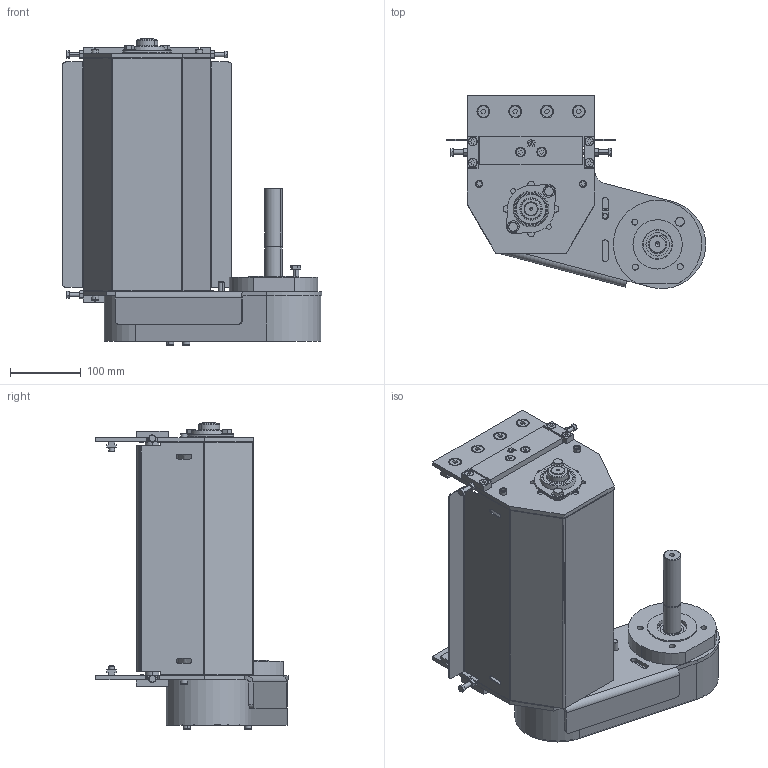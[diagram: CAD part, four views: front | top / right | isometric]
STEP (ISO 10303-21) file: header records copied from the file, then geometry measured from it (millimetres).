
FILE_DESCRIPTION (( 'STEP AP203' ), '1' );
FILE_NAME ('084.050.KCRS.49.300.STEP', '2019-07-30T06:41:48', ( '' ), ( '' ), 'SwSTEP 2.0', 'SolidWorks 2018', '' );
FILE_SCHEMA (( 'CONFIG_CONTROL_DESIGN' ));
Length unit declared in the file: millimetre
Products named in the file (37): DADI ESAGONALI NORMALI UNI 5588_M6 UNI 5588; VITI TE UNI 5739_M6x50 UNI 5739; 084.810.009; Circlip DIN 471 - 8 x 0.8_Circlip DIN 471 - 8 x 0.8; VITI TSEI UNI 5933_M6x16 UNI 5933; VITI TSEI UNI 5933_M8x20 UNI 5933; 084.821.002; 084.817.019; 084.802.011; 084.816.102_084.816.107<A macchina>; 084.810.003; 084.802.020; 084.813.008; VITI TE UNI 5739_M8x60 UNI 5739; VITI TCEI UNI 5931_M6x20 UNI 5931; 084.817.020; 084.809.006_Default<A macchina>; CUSCINETTI A SFERE_6004-2RS; 084.814.007; RONDELLE UNI 6592_8.4x17 UNI 6592; 084.812.003; 084.817.018; VITI TCEI UNI 5931_M6x70 UNI 5931; CHIAVETTE_A 8x7x70 UNI 6604-69; CHIAVETTE_A 8x7x25 UNI 6604-69; CUSCINETTI A SFERE_608-2RS; 084.050.KCRS.49.300; 084.802.021; 084.802.004-1; 084.802.012; VITI TE UNI 5739_M8x12 UNI 5739; SBPFL 205; 084.802.052; 084.802.050-1; 084.307.006; 084.802.003-1; ISO 7040-M8-N_ISO 7040-M8-N
Assembly tree (86 placements, depth 2):
  084.050.KCRS.49.300
    084.802.050-1
    084.802.011
    084.814.007
    CHIAVETTE_A 8x7x70 UNI 6604-69
    084.821.002  x2
    084.802.052  x2
    084.810.009
    CUSCINETTI A SFERE_608-2RS  x3
    Circlip DIN 471 - 8 x 0.8_Circlip DIN 471 - 8 x 0.8
    SBPFL 205
    RONDELLE UNI 6592_8.4x17 UNI 6592  x4
    VITI TE UNI 5739_M8x12 UNI 5739  x4
    084.813.008
    084.802.004-1  x4
    084.802.012  x2
    VITI TSEI UNI 5933_M6x16 UNI 5933  x12
    VITI TE UNI 5739_M6x50 UNI 5739  x4
    DADI ESAGONALI NORMALI UNI 5588_M6 UNI 5588  x4
    VITI TSEI UNI 5933_M8x20 UNI 5933  x8
    084.307.006  x2
    VITI TCEI UNI 5931_M6x20 UNI 5931  x4
    084.802.003-1
    084.802.020
    VITI TCEI UNI 5931_M6x70 UNI 5931  x2
    084.812.003
    CHIAVETTE_A 8x7x25 UNI 6604-69  x2
    084.817.018
    084.810.003  x2
    084.816.102_084.816.107<A macchina>
    084.817.019  x2
    CUSCINETTI A SFERE_6004-2RS  x4
    084.817.020  x2
    084.809.006_Default<A macchina>
    VITI TE UNI 5739_M8x60 UNI 5739
    ISO 7040-M8-N_ISO 7040-M8-N
    084.802.021
Bounding box: 367.24 x 272.33 x 434 mm (x, y, z)
Volume: 3129905.2 mm3; surface area: 1560465.2 mm2
Topology: 90 solids, 90 shells, 2508 faces, 6071 edges, 3866 vertices
Faces by surface type: plane 1086, cylinder 881, cone 407, torus 114, sphere 20
Entity records: 47334 total; most frequent: CARTESIAN_POINT 7966, DIRECTION 7603, ORIENTED_EDGE 6746, EDGE_CURVE 3373, AXIS2_PLACEMENT_3D 2911, VERTEX_POINT 2170, VECTOR 1781, LINE 1781
